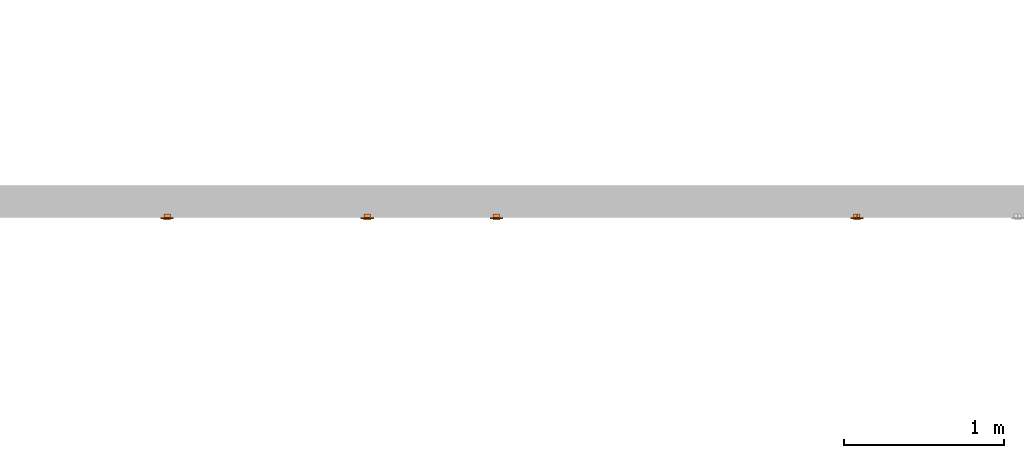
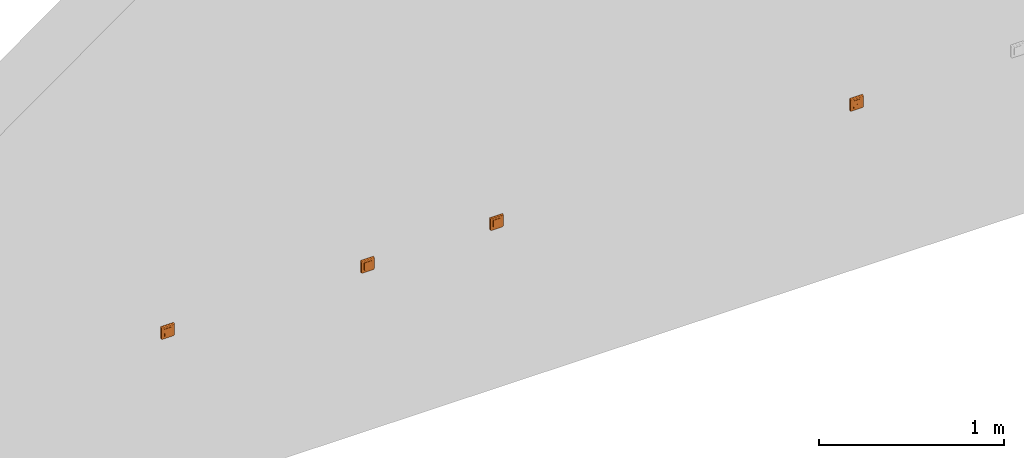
# One storey, part 133 of 197: 4 proxies.
"""IFC2X3 building model written with IfcOpenShell, lengths in metres."""

from ifc_helpers import new_model, entity, si_unit, converted_unit, direction, frame, origin, place, context, subcontext, project, spatial, faceted_brep, source, transform, mapped, material, material_list, type_object, type_shapes, element, save


model = new_model("IFC2X3")

# Units and contexts
model_context = context("Model", 3, precision=1e-05, world=origin(), true_north=direction((6.123031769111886e-17, 1.0)))
body_context = subcontext(model_context, "Body", "Model", "MODEL_VIEW")
ifc_project = project(units=[si_unit("LENGTHUNIT", "METRE"), converted_unit("PLANEANGLEUNIT", "DEGREE", entity("IfcPlaneAngleMeasure", 0.017453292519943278), si_unit("PLANEANGLEUNIT", "RADIAN"), dimensions=[0, 0, 0, 0, 0, 0, 0]), si_unit("AREAUNIT", "SQUARE_METRE")], contexts=[model_context])

# Site, building, storey
site_placement = place(None, origin())
site = spatial("IfcSite", under=ifc_project, at=site_placement, Name="Default", CompositionType="ELEMENT")
building_placement = place(site_placement, origin())
building = spatial("IfcBuilding", under=site, at=building_placement, CompositionType="ELEMENT")
storey_placement = place(building_placement, origin())
storey = spatial("IfcBuildingStorey", under=building, at=storey_placement, Name="Niveau 0", CompositionType="ELEMENT", Elevation=0.0)

# Proxies
ifc_material_1 = material(Name="BETCE-DOIGT-BLANC")
ifc_material_2 = material(Name="BETCE-ENJOLIVEUR-BLANC")
ifc_material_3 = material(Name="<Unnamed>")
ifc_material_list = material_list([ifc_material_1, ifc_material_2, ifc_material_3])
building_element_proxy_type_1 = type_object("IfcBuildingElementProxyType", Name="Interrupteur simple encastré:Bouton poussoir", PredefinedType="NOTDEFINED", material=ifc_material_list)
shared_shape_1 = source(origin(), body_context, "Body", "Brep", [
    faceted_brep([(-0.022500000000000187, 0.0, -0.022500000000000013), (-0.022500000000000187, 0.0, 0.022499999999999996), (0.022499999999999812, 0.0, 0.022499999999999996), (0.022499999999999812, 0.0, -0.022500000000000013), (-0.022500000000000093, -0.014999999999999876, -0.022500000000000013), (-0.02250000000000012, -0.010499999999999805, 0.022499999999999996), (0.022499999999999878, -0.010499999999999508, 0.022499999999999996), (0.022499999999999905, -0.014999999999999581, -0.022500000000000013)], [[[0, 1, 2, 3]], [[1, 0, 4, 5]], [[2, 1, 5, 6]], [[3, 2, 6, 7]], [[0, 3, 7, 4]], [[5, 4, 7, 6]]]),
    faceted_brep([(0.04099999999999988, -0.008999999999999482, -0.032999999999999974), (0.04099999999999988, -0.008999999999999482, 0.031999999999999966), (0.022499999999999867, -0.008999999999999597, -0.022500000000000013), (0.032999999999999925, -0.008999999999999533, -0.04099999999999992), (0.03507055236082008, -0.008999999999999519, -0.04072740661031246), (0.040727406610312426, -0.008999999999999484, -0.03507055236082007), (0.022499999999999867, -0.008999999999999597, 0.022499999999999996), (-0.02250000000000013, -0.008999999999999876, 0.022499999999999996), (-0.04100000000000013, -0.008999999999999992, 0.031999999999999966), (-0.02250000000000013, -0.008999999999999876, -0.022500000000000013), (-0.04100000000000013, -0.008999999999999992, -0.03299999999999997), (-0.033000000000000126, -0.008999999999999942, -0.04099999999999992), (-0.035070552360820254, -0.008999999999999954, -0.040727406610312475), (-0.040727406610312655, -0.008999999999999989, -0.03507055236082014), (-0.03700000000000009, -0.008999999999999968, -0.039928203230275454), (-0.03992820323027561, -0.008999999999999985, -0.036999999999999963), (-0.03865685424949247, -0.008999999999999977, -0.03865685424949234), (0.036999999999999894, -0.008999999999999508, -0.03992820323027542), (0.03992820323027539, -0.00899999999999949, -0.036999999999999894), (0.038656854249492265, -0.008999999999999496, -0.03865685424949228), (-0.04100000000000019, 0.0, -0.03299999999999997), (-0.04100000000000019, 0.0, 0.04100000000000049), (-0.02250000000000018, 0.0, 0.022499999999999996), (-0.02250000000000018, 0.0, -0.022500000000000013), (-0.03300000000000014, 0.0, -0.04099999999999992), (-0.04072740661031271, 0.0, -0.03507055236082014), (0.022499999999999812, 0.0, 0.022499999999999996), (0.040999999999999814, 0.0, 0.04099999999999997), (0.04099999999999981, 0.0, -0.03299999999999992), (0.022499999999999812, 0.0, -0.022500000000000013), (0.03299999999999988, 0.0, -0.04099999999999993), (0.040727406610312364, 0.0, -0.03507055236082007), (0.035070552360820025, 0.0, -0.04072740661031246), (0.039928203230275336, 0.0, -0.036999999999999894), (0.03699999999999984, 0.0, -0.03992820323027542), (0.03865685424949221, 0.0, -0.03865685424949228), (-0.0350705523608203, 0.0, -0.040727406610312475), (-0.03992820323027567, 0.0, -0.036999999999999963), (-0.03700000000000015, 0.0, -0.039928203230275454), (-0.03865685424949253, 0.0, -0.03865685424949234), (0.040999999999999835, -0.002329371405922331, 0.040693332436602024), (0.04099999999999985, -0.004499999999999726, 0.03979422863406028), (0.040999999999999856, -0.006363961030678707, 0.03836396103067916), (0.04099999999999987, -0.007794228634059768, 0.03650000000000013), (0.04099999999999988, -0.008693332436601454, 0.03432937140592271), (-0.04100000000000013, -0.008693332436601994, 0.03432937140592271), (-0.04100000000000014, -0.007794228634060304, 0.036500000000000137), (-0.04100000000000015, -0.0063639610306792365, 0.038363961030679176), (-0.041000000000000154, -0.004500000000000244, 0.039794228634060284), (-0.041000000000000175, -0.002329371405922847, 0.04069333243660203)], [[[0, 1, 2]], [[3, 0, 2]], [[0, 3, 4]], [[5, 0, 4]], [[2, 1, 6]], [[1, 7, 6]], [[7, 1, 8]], [[9, 7, 8]], [[10, 9, 8]], [[11, 9, 10]], [[11, 10, 12]], [[12, 10, 13]], [[14, 12, 13]], [[15, 14, 13]], [[14, 15, 16]], [[9, 11, 3]], [[2, 9, 3]], [[5, 4, 17]], [[5, 17, 18]], [[19, 18, 17]], [[20, 21, 22]], [[23, 20, 22]], [[24, 20, 23]], [[25, 20, 24]], [[21, 26, 22]], [[26, 21, 27]], [[28, 26, 27]], [[29, 26, 28]], [[30, 29, 28]], [[30, 28, 31]], [[30, 31, 32]], [[31, 33, 32]], [[33, 34, 32]], [[34, 33, 35]], [[29, 30, 24]], [[25, 24, 36]], [[23, 29, 24]], [[37, 25, 36]], [[37, 36, 38]], [[39, 37, 38]], [[1, 0, 28, 27, 40, 41, 42, 43, 44]], [[31, 28, 0, 5]], [[33, 31, 5, 18]], [[35, 33, 18, 19]], [[34, 35, 19, 17]], [[32, 34, 17, 4]], [[30, 32, 4, 3]], [[24, 30, 3, 11]], [[36, 24, 11, 12]], [[38, 36, 12, 14]], [[39, 38, 14, 16]], [[37, 39, 16, 15]], [[25, 37, 15, 13]], [[20, 25, 13, 10]], [[21, 20, 10, 8, 45, 46, 47, 48, 49]], [[44, 43, 46, 45]], [[1, 44, 45, 8]], [[43, 42, 47, 46]], [[49, 48, 41, 40]], [[21, 49, 40, 27]], [[42, 41, 48, 47]], [[23, 22, 7, 9]], [[29, 23, 9, 2]], [[26, 29, 2, 6]], [[22, 26, 6, 7]]]),
    faceted_brep([(-0.020500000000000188, 0.0, 0.020499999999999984), (-0.020500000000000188, 0.0, -0.020500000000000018), (0.020499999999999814, 0.0, -0.020500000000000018), (0.020499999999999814, 0.0, 0.020499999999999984), (-0.02050000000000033, 0.023000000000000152, 0.020499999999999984), (0.02049999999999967, 0.023000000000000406, 0.020499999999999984), (0.02049999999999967, 0.023000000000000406, -0.020500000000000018), (-0.02050000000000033, 0.023000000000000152, -0.020500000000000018)], [[[0, 1, 2, 3]], [[4, 5, 6, 7]], [[1, 0, 4, 7]], [[2, 1, 7, 6]], [[3, 2, 6, 5]], [[0, 3, 5, 4]]]),
])
type_shapes(building_element_proxy_type_1, [shared_shape_1])
proxy_1_placement = place(storey_placement, frame((-417.99844850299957, 122.781355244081, 1.1)))
element("IfcBuildingElementProxy", 1, at=proxy_1_placement, inside=storey, type_object=building_element_proxy_type_1, material=ifc_material_list, Name="Interrupteur simple encastré:Bouton poussoir", ObjectType="Interrupteur simple encastré:Bouton poussoir", context=body_context, shape_type="MappedRepresentation", body=[
    mapped(shared_shape_1, transform((0.0, 0.0, 0.0), scale=1.0)),
])
building_element_proxy_type_2 = type_object("IfcBuildingElementProxyType", Name="Interrupteur simple encastré:Simple allumage", PredefinedType="NOTDEFINED", material=ifc_material_list)
shared_shape_2 = source(origin(), body_context, "Body", "Brep", [
    faceted_brep([(-0.022500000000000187, 0.0, -0.022500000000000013), (-0.022500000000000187, 0.0, 0.022499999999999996), (0.022499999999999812, 0.0, 0.022499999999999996), (0.022499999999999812, 0.0, -0.022500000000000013), (-0.022500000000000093, -0.014999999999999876, -0.022500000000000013), (-0.02250000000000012, -0.010499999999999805, 0.022499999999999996), (0.022499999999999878, -0.010499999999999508, 0.022499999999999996), (0.022499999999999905, -0.014999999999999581, -0.022500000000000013)], [[[0, 1, 2, 3]], [[1, 0, 4, 5]], [[2, 1, 5, 6]], [[3, 2, 6, 7]], [[0, 3, 7, 4]], [[5, 4, 7, 6]]]),
    faceted_brep([(0.04099999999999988, -0.008999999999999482, -0.032999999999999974), (0.04099999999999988, -0.008999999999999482, 0.031999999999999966), (0.022499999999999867, -0.008999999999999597, -0.022500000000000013), (0.032999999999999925, -0.008999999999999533, -0.04099999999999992), (0.03507055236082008, -0.008999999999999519, -0.04072740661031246), (0.040727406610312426, -0.008999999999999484, -0.03507055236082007), (0.022499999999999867, -0.008999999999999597, 0.022499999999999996), (-0.02250000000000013, -0.008999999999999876, 0.022499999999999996), (-0.04100000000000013, -0.008999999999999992, 0.031999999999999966), (-0.02250000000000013, -0.008999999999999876, -0.022500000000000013), (-0.04100000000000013, -0.008999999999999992, -0.03299999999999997), (-0.033000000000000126, -0.008999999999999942, -0.04099999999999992), (-0.035070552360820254, -0.008999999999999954, -0.040727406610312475), (-0.040727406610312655, -0.008999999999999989, -0.03507055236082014), (-0.03700000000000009, -0.008999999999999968, -0.039928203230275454), (-0.03992820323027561, -0.008999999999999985, -0.036999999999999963), (-0.03865685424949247, -0.008999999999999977, -0.03865685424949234), (0.036999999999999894, -0.008999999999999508, -0.03992820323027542), (0.03992820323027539, -0.00899999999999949, -0.036999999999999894), (0.038656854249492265, -0.008999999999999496, -0.03865685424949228), (-0.04100000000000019, 0.0, -0.03299999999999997), (-0.04100000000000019, 0.0, 0.04100000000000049), (-0.02250000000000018, 0.0, 0.022499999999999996), (-0.02250000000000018, 0.0, -0.022500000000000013), (-0.03300000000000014, 0.0, -0.04099999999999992), (-0.04072740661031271, 0.0, -0.03507055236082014), (0.022499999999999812, 0.0, 0.022499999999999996), (0.040999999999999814, 0.0, 0.04099999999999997), (0.04099999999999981, 0.0, -0.03299999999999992), (0.022499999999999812, 0.0, -0.022500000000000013), (0.03299999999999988, 0.0, -0.04099999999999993), (0.040727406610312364, 0.0, -0.03507055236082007), (0.035070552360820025, 0.0, -0.04072740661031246), (0.039928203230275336, 0.0, -0.036999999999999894), (0.03699999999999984, 0.0, -0.03992820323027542), (0.03865685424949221, 0.0, -0.03865685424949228), (-0.0350705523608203, 0.0, -0.040727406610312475), (-0.03992820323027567, 0.0, -0.036999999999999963), (-0.03700000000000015, 0.0, -0.039928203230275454), (-0.03865685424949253, 0.0, -0.03865685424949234), (0.040999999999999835, -0.002329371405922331, 0.040693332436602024), (0.04099999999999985, -0.004499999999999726, 0.03979422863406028), (0.040999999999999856, -0.006363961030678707, 0.03836396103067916), (0.04099999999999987, -0.007794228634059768, 0.03650000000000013), (0.04099999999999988, -0.008693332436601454, 0.03432937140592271), (-0.04100000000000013, -0.008693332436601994, 0.03432937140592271), (-0.04100000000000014, -0.007794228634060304, 0.036500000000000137), (-0.04100000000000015, -0.0063639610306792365, 0.038363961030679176), (-0.041000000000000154, -0.004500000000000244, 0.039794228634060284), (-0.041000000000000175, -0.002329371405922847, 0.04069333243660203)], [[[0, 1, 2]], [[3, 0, 2]], [[0, 3, 4]], [[5, 0, 4]], [[2, 1, 6]], [[1, 7, 6]], [[7, 1, 8]], [[9, 7, 8]], [[10, 9, 8]], [[11, 9, 10]], [[11, 10, 12]], [[12, 10, 13]], [[14, 12, 13]], [[15, 14, 13]], [[14, 15, 16]], [[9, 11, 3]], [[2, 9, 3]], [[5, 4, 17]], [[5, 17, 18]], [[19, 18, 17]], [[20, 21, 22]], [[23, 20, 22]], [[24, 20, 23]], [[25, 20, 24]], [[21, 26, 22]], [[26, 21, 27]], [[28, 26, 27]], [[29, 26, 28]], [[30, 29, 28]], [[30, 28, 31]], [[30, 31, 32]], [[31, 33, 32]], [[33, 34, 32]], [[34, 33, 35]], [[29, 30, 24]], [[25, 24, 36]], [[23, 29, 24]], [[37, 25, 36]], [[37, 36, 38]], [[39, 37, 38]], [[1, 0, 28, 27, 40, 41, 42, 43, 44]], [[31, 28, 0, 5]], [[33, 31, 5, 18]], [[35, 33, 18, 19]], [[34, 35, 19, 17]], [[32, 34, 17, 4]], [[30, 32, 4, 3]], [[24, 30, 3, 11]], [[36, 24, 11, 12]], [[38, 36, 12, 14]], [[39, 38, 14, 16]], [[37, 39, 16, 15]], [[25, 37, 15, 13]], [[20, 25, 13, 10]], [[21, 20, 10, 8, 45, 46, 47, 48, 49]], [[44, 43, 46, 45]], [[1, 44, 45, 8]], [[43, 42, 47, 46]], [[49, 48, 41, 40]], [[21, 49, 40, 27]], [[42, 41, 48, 47]], [[23, 22, 7, 9]], [[29, 23, 9, 2]], [[26, 29, 2, 6]], [[22, 26, 6, 7]]]),
    faceted_brep([(-0.020500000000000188, 0.0, 0.020499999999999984), (-0.020500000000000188, 0.0, -0.020500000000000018), (0.020499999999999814, 0.0, -0.020500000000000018), (0.020499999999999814, 0.0, 0.020499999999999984), (-0.02050000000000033, 0.023000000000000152, 0.020499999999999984), (0.02049999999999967, 0.023000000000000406, 0.020499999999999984), (0.02049999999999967, 0.023000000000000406, -0.020500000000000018), (-0.02050000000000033, 0.023000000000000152, -0.020500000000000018)], [[[0, 1, 2, 3]], [[4, 5, 6, 7]], [[1, 0, 4, 7]], [[2, 1, 7, 6]], [[3, 2, 6, 5]], [[0, 3, 5, 4]]]),
])
type_shapes(building_element_proxy_type_2, [shared_shape_2])
proxy_2_placement = place(storey_placement, frame((-416.74944850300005, 122.781355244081, 1.1)))
element("IfcBuildingElementProxy", 2, at=proxy_2_placement, inside=storey, type_object=building_element_proxy_type_2, material=ifc_material_list, Name="Interrupteur simple encastré:Simple allumage", ObjectType="Interrupteur simple encastré:Simple allumage", context=body_context, shape_type="MappedRepresentation", body=[
    mapped(shared_shape_2, transform((0.0, 0.0, 0.0), scale=1.0)),
])
building_element_proxy_type_3 = type_object("IfcBuildingElementProxyType", Name="Interrupteur simple encastré:Va et vient", PredefinedType="NOTDEFINED", material=ifc_material_list)
shared_shape_3 = source(origin(), body_context, "Body", "Brep", [
    faceted_brep([(-0.022500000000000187, 0.0, -0.022500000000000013), (-0.022500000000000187, 0.0, 0.022499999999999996), (0.022499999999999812, 0.0, 0.022499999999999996), (0.022499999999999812, 0.0, -0.022500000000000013), (-0.022500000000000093, -0.014999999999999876, -0.022500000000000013), (-0.02250000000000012, -0.010499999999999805, 0.022499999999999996), (0.022499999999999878, -0.010499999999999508, 0.022499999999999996), (0.022499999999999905, -0.014999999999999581, -0.022500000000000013)], [[[0, 1, 2, 3]], [[1, 0, 4, 5]], [[2, 1, 5, 6]], [[3, 2, 6, 7]], [[0, 3, 7, 4]], [[5, 4, 7, 6]]]),
    faceted_brep([(0.04099999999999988, -0.008999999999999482, -0.032999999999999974), (0.04099999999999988, -0.008999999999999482, 0.031999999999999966), (0.022499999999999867, -0.008999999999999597, -0.022500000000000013), (0.032999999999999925, -0.008999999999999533, -0.04099999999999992), (0.03507055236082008, -0.008999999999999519, -0.04072740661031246), (0.040727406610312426, -0.008999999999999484, -0.03507055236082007), (0.022499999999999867, -0.008999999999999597, 0.022499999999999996), (-0.02250000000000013, -0.008999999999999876, 0.022499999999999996), (-0.04100000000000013, -0.008999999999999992, 0.031999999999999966), (-0.02250000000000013, -0.008999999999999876, -0.022500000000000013), (-0.04100000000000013, -0.008999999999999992, -0.03299999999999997), (-0.033000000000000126, -0.008999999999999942, -0.04099999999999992), (-0.035070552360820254, -0.008999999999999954, -0.040727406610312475), (-0.040727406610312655, -0.008999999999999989, -0.03507055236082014), (-0.03700000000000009, -0.008999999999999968, -0.039928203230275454), (-0.03992820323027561, -0.008999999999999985, -0.036999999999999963), (-0.03865685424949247, -0.008999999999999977, -0.03865685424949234), (0.036999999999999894, -0.008999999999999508, -0.03992820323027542), (0.03992820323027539, -0.00899999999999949, -0.036999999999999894), (0.038656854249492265, -0.008999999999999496, -0.03865685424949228), (-0.04100000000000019, 0.0, -0.03299999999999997), (-0.04100000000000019, 0.0, 0.04100000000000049), (-0.02250000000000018, 0.0, 0.022499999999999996), (-0.02250000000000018, 0.0, -0.022500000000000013), (-0.03300000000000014, 0.0, -0.04099999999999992), (-0.04072740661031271, 0.0, -0.03507055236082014), (0.022499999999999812, 0.0, 0.022499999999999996), (0.040999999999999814, 0.0, 0.04099999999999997), (0.04099999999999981, 0.0, -0.03299999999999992), (0.022499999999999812, 0.0, -0.022500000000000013), (0.03299999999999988, 0.0, -0.04099999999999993), (0.040727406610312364, 0.0, -0.03507055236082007), (0.035070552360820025, 0.0, -0.04072740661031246), (0.039928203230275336, 0.0, -0.036999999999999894), (0.03699999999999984, 0.0, -0.03992820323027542), (0.03865685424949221, 0.0, -0.03865685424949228), (-0.0350705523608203, 0.0, -0.040727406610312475), (-0.03992820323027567, 0.0, -0.036999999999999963), (-0.03700000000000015, 0.0, -0.039928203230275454), (-0.03865685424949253, 0.0, -0.03865685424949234), (0.040999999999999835, -0.002329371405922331, 0.040693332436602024), (0.04099999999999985, -0.004499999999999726, 0.03979422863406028), (0.040999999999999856, -0.006363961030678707, 0.03836396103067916), (0.04099999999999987, -0.007794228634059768, 0.03650000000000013), (0.04099999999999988, -0.008693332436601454, 0.03432937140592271), (-0.04100000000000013, -0.008693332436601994, 0.03432937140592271), (-0.04100000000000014, -0.007794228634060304, 0.036500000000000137), (-0.04100000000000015, -0.0063639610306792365, 0.038363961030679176), (-0.041000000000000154, -0.004500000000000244, 0.039794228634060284), (-0.041000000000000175, -0.002329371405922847, 0.04069333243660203)], [[[0, 1, 2]], [[3, 0, 2]], [[0, 3, 4]], [[5, 0, 4]], [[2, 1, 6]], [[1, 7, 6]], [[7, 1, 8]], [[9, 7, 8]], [[10, 9, 8]], [[11, 9, 10]], [[11, 10, 12]], [[12, 10, 13]], [[14, 12, 13]], [[15, 14, 13]], [[14, 15, 16]], [[9, 11, 3]], [[2, 9, 3]], [[5, 4, 17]], [[5, 17, 18]], [[19, 18, 17]], [[20, 21, 22]], [[23, 20, 22]], [[24, 20, 23]], [[25, 20, 24]], [[21, 26, 22]], [[26, 21, 27]], [[28, 26, 27]], [[29, 26, 28]], [[30, 29, 28]], [[30, 28, 31]], [[30, 31, 32]], [[31, 33, 32]], [[33, 34, 32]], [[34, 33, 35]], [[29, 30, 24]], [[25, 24, 36]], [[23, 29, 24]], [[37, 25, 36]], [[37, 36, 38]], [[39, 37, 38]], [[1, 0, 28, 27, 40, 41, 42, 43, 44]], [[31, 28, 0, 5]], [[33, 31, 5, 18]], [[35, 33, 18, 19]], [[34, 35, 19, 17]], [[32, 34, 17, 4]], [[30, 32, 4, 3]], [[24, 30, 3, 11]], [[36, 24, 11, 12]], [[38, 36, 12, 14]], [[39, 38, 14, 16]], [[37, 39, 16, 15]], [[25, 37, 15, 13]], [[20, 25, 13, 10]], [[21, 20, 10, 8, 45, 46, 47, 48, 49]], [[44, 43, 46, 45]], [[1, 44, 45, 8]], [[43, 42, 47, 46]], [[49, 48, 41, 40]], [[21, 49, 40, 27]], [[42, 41, 48, 47]], [[23, 22, 7, 9]], [[29, 23, 9, 2]], [[26, 29, 2, 6]], [[22, 26, 6, 7]]]),
    faceted_brep([(-0.020500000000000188, 0.0, 0.020499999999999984), (-0.020500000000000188, 0.0, -0.020500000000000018), (0.020499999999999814, 0.0, -0.020500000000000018), (0.020499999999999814, 0.0, 0.020499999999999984), (-0.02050000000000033, 0.023000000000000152, 0.020499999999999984), (0.02049999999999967, 0.023000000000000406, 0.020499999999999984), (0.02049999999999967, 0.023000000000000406, -0.020500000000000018), (-0.02050000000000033, 0.023000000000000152, -0.020500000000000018)], [[[0, 1, 2, 3]], [[4, 5, 6, 7]], [[1, 0, 4, 7]], [[2, 1, 7, 6]], [[3, 2, 6, 5]], [[0, 3, 5, 4]]]),
])
type_shapes(building_element_proxy_type_3, [shared_shape_3])
proxy_3_placement = place(storey_placement, frame((-415.9434485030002, 122.781355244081, 1.1)))
element("IfcBuildingElementProxy", 3, at=proxy_3_placement, inside=storey, type_object=building_element_proxy_type_3, material=ifc_material_list, Name="Interrupteur simple encastré:Va et vient", ObjectType="Interrupteur simple encastré:Va et vient", context=body_context, shape_type="MappedRepresentation", body=[
    mapped(shared_shape_3, transform((0.0, 0.0, 0.0), scale=1.0)),
])
building_element_proxy_type_4 = type_object("IfcBuildingElementProxyType", Name="Interrupteur double encastré:Double bouton poussoir", PredefinedType="NOTDEFINED", material=ifc_material_list)
shared_shape_4 = source(origin(), body_context, "Body", "Brep", [
    faceted_brep([(0.022499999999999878, -0.010499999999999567, 0.022499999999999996), (9.999999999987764e-05, -0.010499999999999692, 0.022500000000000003), (9.999999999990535e-05, -0.014999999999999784, -0.02250000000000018), (0.022499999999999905, -0.014999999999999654, -0.022500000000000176), (9.99999999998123e-05, 0.0, 0.022499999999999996), (0.022499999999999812, 0.0, 0.022499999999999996), (0.022499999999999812, 0.0, -0.02250000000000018), (9.99999999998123e-05, 0.0, -0.02250000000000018)], [[[0, 1, 2, 3]], [[4, 5, 6, 7]], [[5, 4, 1, 0]], [[6, 5, 0, 3]], [[7, 6, 3, 2]], [[4, 7, 2, 1]]]),
    faceted_brep([(-0.022500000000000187, 0.0, -0.022500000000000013), (-0.022500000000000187, 0.0, 0.022499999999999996), (-0.00010000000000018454, 0.0, 0.022499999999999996), (-0.00010000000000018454, 0.0, -0.022500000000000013), (-0.022500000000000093, -0.014999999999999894, -0.022500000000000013), (-0.02250000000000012, -0.010499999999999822, 0.022499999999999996), (-0.0001000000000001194, -0.010499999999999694, 0.022499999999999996), (-0.00010000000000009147, -0.01499999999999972, -0.022500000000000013)], [[[0, 1, 2, 3]], [[1, 0, 4, 5]], [[2, 1, 5, 6]], [[3, 2, 6, 7]], [[0, 3, 7, 4]], [[5, 4, 7, 6]]]),
    faceted_brep([(0.04099999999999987, -0.008999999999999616, -0.03299999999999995), (0.04099999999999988, -0.008999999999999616, 0.031999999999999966), (0.022499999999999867, -0.008999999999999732, -0.022500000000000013), (0.03299999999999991, -0.008999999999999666, -0.0409999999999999), (0.03507055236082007, -0.008999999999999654, -0.04072740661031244), (0.040727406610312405, -0.00899999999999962, -0.03507055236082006), (0.022499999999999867, -0.008999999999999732, 0.022499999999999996), (-0.022500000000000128, -0.009000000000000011, 0.022499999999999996), (-0.04100000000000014, -0.009000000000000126, 0.031999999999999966), (-0.022500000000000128, -0.009000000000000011, -0.022500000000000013), (-0.04100000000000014, -0.009000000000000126, -0.032999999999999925), (-0.033000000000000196, -0.009000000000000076, -0.04099999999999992), (-0.03507055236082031, -0.00900000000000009, -0.04072740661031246), (-0.040727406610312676, -0.009000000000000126, -0.035070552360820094), (-0.03700000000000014, -0.009000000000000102, -0.03992820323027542), (-0.039928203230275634, -0.009000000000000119, -0.036999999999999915), (-0.038656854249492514, -0.009000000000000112, -0.03865685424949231), (0.03699999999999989, -0.008999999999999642, -0.039928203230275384), (0.039928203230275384, -0.008999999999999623, -0.036999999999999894), (0.03865685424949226, -0.008999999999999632, -0.03865685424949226), (-0.04100000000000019, 0.0, -0.03299999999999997), (-0.041000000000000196, 0.0, 0.04100000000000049), (-0.02250000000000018, 0.0, 0.022499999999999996), (-0.02250000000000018, 0.0, -0.022500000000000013), (-0.033000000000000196, 0.0, -0.04099999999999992), (-0.04072740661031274, 0.0, -0.035070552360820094), (0.022499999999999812, 0.0, 0.022499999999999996), (0.04099999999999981, 0.0, 0.04099999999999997), (0.04099999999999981, 0.0, -0.0329999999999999), (0.022499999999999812, 0.0, -0.022500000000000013), (0.032999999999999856, 0.0, -0.0409999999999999), (0.04072740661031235, 0.0, -0.03507055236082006), (0.03507055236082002, 0.0, -0.04072740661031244), (0.03992820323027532, 0.0, -0.036999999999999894), (0.03699999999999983, 0.0, -0.039928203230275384), (0.0386568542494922, 0.0, -0.03865685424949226), (-0.035070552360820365, 0.0, -0.04072740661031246), (-0.0399282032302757, 0.0, -0.036999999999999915), (-0.03700000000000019, 0.0, -0.03992820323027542), (-0.03865685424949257, 0.0, -0.03865685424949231), (0.04099999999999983, -0.0023293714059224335, 0.040693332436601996), (0.04099999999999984, -0.004499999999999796, 0.039794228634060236), (0.04099999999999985, -0.006363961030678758, 0.03836396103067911), (0.040999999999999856, -0.007794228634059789, 0.03650000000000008), (0.04099999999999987, -0.008693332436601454, 0.034329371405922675), (-0.04100000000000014, -0.008693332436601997, 0.03432937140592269), (-0.04100000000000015, -0.007794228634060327, 0.036500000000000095), (-0.041000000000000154, -0.006363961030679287, 0.03836396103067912), (-0.04100000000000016, -0.00450000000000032, 0.03979422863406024), (-0.041000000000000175, -0.0023293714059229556, 0.040693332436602)], [[[0, 1, 2]], [[3, 0, 2]], [[0, 3, 4]], [[5, 0, 4]], [[2, 1, 6]], [[1, 7, 6]], [[7, 1, 8]], [[9, 7, 8]], [[10, 9, 8]], [[11, 9, 10]], [[11, 10, 12]], [[12, 10, 13]], [[14, 12, 13]], [[15, 14, 13]], [[14, 15, 16]], [[9, 11, 3]], [[2, 9, 3]], [[5, 4, 17]], [[5, 17, 18]], [[19, 18, 17]], [[20, 21, 22]], [[23, 20, 22]], [[24, 20, 23]], [[25, 20, 24]], [[21, 26, 22]], [[26, 21, 27]], [[28, 26, 27]], [[29, 26, 28]], [[30, 29, 28]], [[30, 28, 31]], [[30, 31, 32]], [[31, 33, 32]], [[33, 34, 32]], [[34, 33, 35]], [[29, 30, 24]], [[25, 24, 36]], [[23, 29, 24]], [[37, 25, 36]], [[37, 36, 38]], [[39, 37, 38]], [[1, 0, 28, 27, 40, 41, 42, 43, 44]], [[31, 28, 0, 5]], [[33, 31, 5, 18]], [[35, 33, 18, 19]], [[34, 35, 19, 17]], [[32, 34, 17, 4]], [[30, 32, 4, 3]], [[24, 30, 3, 11]], [[36, 24, 11, 12]], [[38, 36, 12, 14]], [[39, 38, 14, 16]], [[37, 39, 16, 15]], [[25, 37, 15, 13]], [[20, 25, 13, 10]], [[21, 20, 10, 8, 45, 46, 47, 48, 49]], [[44, 43, 46, 45]], [[1, 44, 45, 8]], [[43, 42, 47, 46]], [[49, 48, 41, 40]], [[21, 49, 40, 27]], [[42, 41, 48, 47]], [[23, 22, 7, 9]], [[29, 23, 9, 2]], [[26, 29, 2, 6]], [[22, 26, 6, 7]]]),
    faceted_brep([(-0.020500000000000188, 0.0, 0.020499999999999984), (-0.020500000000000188, 0.0, -0.020500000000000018), (-0.0021000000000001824, 0.0, -0.020500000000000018), (-0.0021000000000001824, 0.0, 0.020499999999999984), (-0.02050000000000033, 0.023000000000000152, 0.020499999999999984), (-0.0021000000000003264, 0.023000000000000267, 0.020499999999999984), (-0.0021000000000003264, 0.023000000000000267, -0.020500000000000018), (-0.02050000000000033, 0.023000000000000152, -0.020500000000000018)], [[[0, 1, 2, 3]], [[4, 5, 6, 7]], [[1, 0, 4, 7]], [[2, 1, 7, 6]], [[3, 2, 6, 5]], [[0, 3, 5, 4]]]),
    faceted_brep([(0.002099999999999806, 0.0, -0.02050000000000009), (0.002099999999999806, 0.0, 0.020499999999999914), (0.002099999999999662, 0.02300000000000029, 0.020499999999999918), (0.002099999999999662, 0.02300000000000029, -0.020500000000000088), (0.020499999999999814, 0.0, -0.020500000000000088), (0.02049999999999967, 0.023000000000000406, -0.020500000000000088), (0.020499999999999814, 0.0, 0.020499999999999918), (0.02049999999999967, 0.023000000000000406, 0.020499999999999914)], [[[0, 1, 2, 3]], [[4, 0, 3, 5]], [[6, 4, 5, 7]], [[1, 6, 7, 2]], [[2, 7, 5, 3]], [[1, 0, 4, 6]]]),
])
type_shapes(building_element_proxy_type_4, [shared_shape_4])
proxy_4_placement = place(storey_placement, frame((-413.6934485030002, 122.781355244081, 1.1)))
element("IfcBuildingElementProxy", 4, at=proxy_4_placement, inside=storey, type_object=building_element_proxy_type_4, material=ifc_material_list, Name="Interrupteur double encastré:Double bouton poussoir", ObjectType="Interrupteur double encastré:Double bouton poussoir", context=body_context, shape_type="MappedRepresentation", body=[
    mapped(shared_shape_4, transform((0.0, 0.0, 0.0), scale=1.0)),
])

save(model, "model.ifc")
